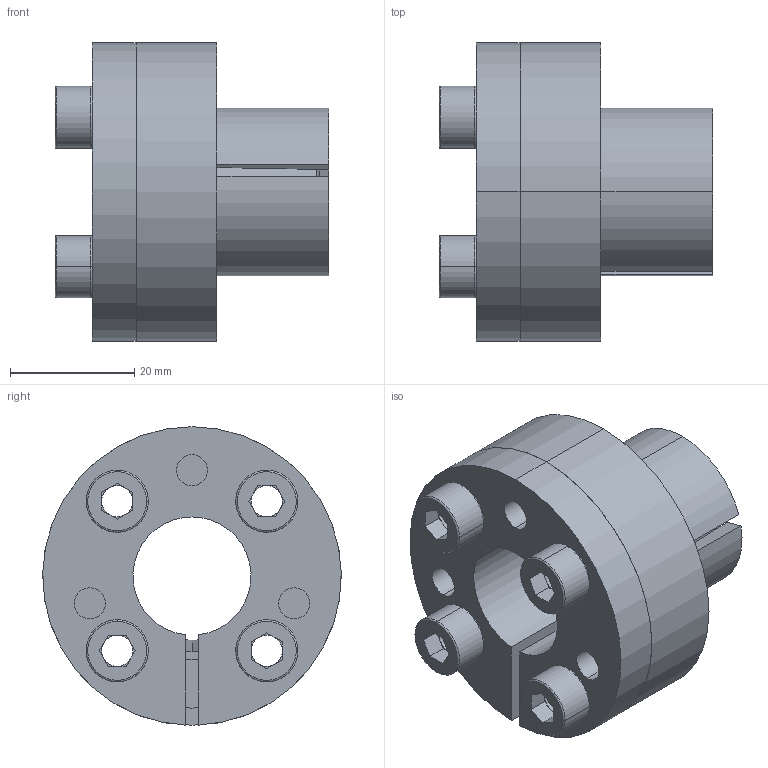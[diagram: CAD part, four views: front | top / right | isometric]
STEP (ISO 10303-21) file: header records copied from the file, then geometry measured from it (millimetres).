
FILE_DESCRIPTION (( 'STEP AP203' ), '1' );
FILE_NAME ('T-19-27.STEP', '2017-10-13T08:12:34', ( 'MYCOM' ), ( '' ), 'SwSTEP 2.0', 'SolidWorks 2015', '' );
FILE_SCHEMA (( 'CONFIG_CONTROL_DESIGN' ));
Length unit declared in the file: millimetre
Products named in the file (1): T-19-27
Bounding box: 44 x 48 x 48 mm (x, y, z)
Surface area: 20451.1 mm2 (no closed solid volume)
Topology: 0 solids, 7 shells, 129 faces, 335 edges, 212 vertices
Faces by surface type: plane 61, cylinder 47, torus 16, cone 5
Entity records: 4057 total; most frequent: DIRECTION 757, CARTESIAN_POINT 695, ORIENTED_EDGE 611, EDGE_CURVE 335, AXIS2_PLACEMENT_3D 296, VERTEX_POINT 212, CIRCLE 166, VECTOR 165
